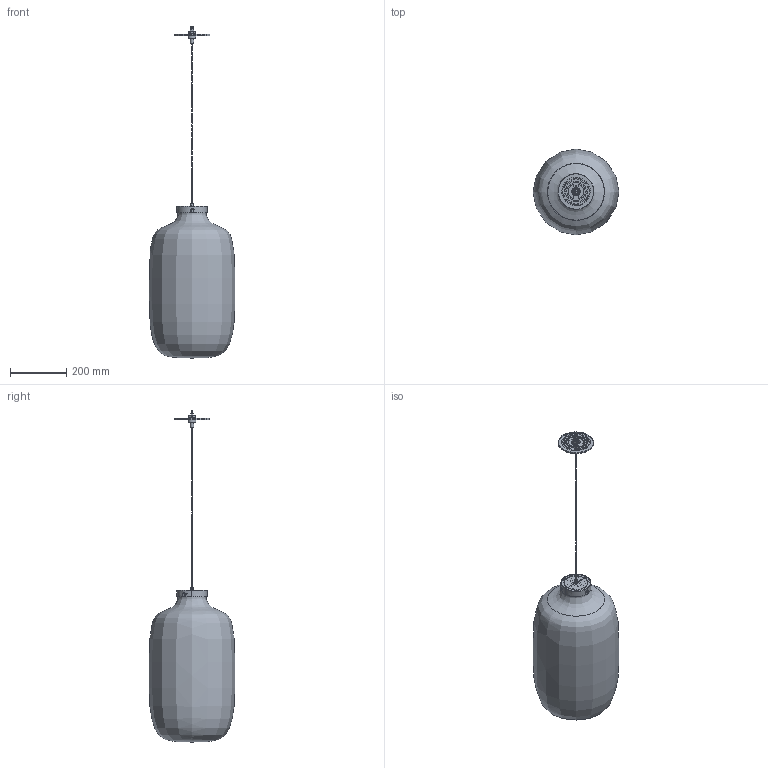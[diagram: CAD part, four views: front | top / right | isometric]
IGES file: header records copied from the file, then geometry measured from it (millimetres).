
Global section: file name: Niche - Brava Tall Pendant; native system: unknown; preprocessor: unknown; author: unknown; organization: unknown; date: 20220902.100907; units: inch
Bounding box: 304.71 x 304.41 x 1180.15 mm (x, y, z)
Volume: 1946581.6 mm3; surface area: 1137790.4 mm2
Topology: 29 solids, 29 shells, 701 faces, 1749 edges, 1148 vertices
Faces by surface type: bspline 701
